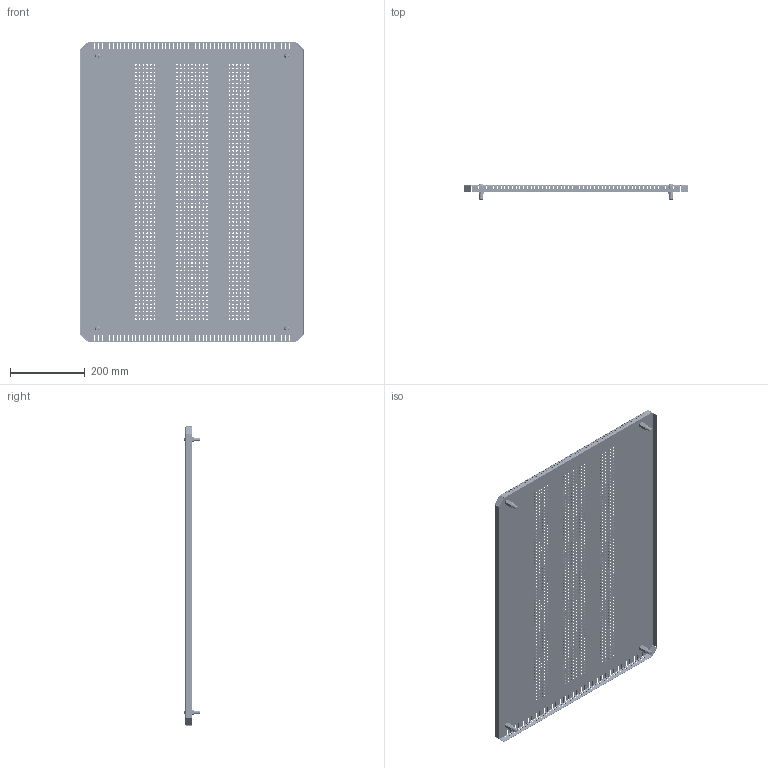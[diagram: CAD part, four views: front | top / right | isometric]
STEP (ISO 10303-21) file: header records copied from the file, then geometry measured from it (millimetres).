
FILE_DESCRIPTION (( 'STEP AP203' ), '1' );
FILE_NAME ('R 60.80 IP Ïàíåëü òåëåêîììóíèêàöèîííàÿ ïîòîëî÷íàÿ ñ ïåðôîðàöèåé.STEP', '2013-01-12T08:52:11', ( 'System' ), ( '' ), 'SwSTEP 2.0', 'SolidWorks 2012', '' );
FILE_SCHEMA (( 'CONFIG_CONTROL_DESIGN' ));
Products named in the file (1): R 60.80 IP Ïàíåëü òåëåêîììóíèêàöèîííàÿ ïîòîëî÷íàÿ ñ ïåðôîðàöèåé
Bounding box: 600 x 42.72 x 800 mm (x, y, z)
Volume: 616448.6 mm3; surface area: 1038037 mm2
Topology: 5 solids, 9 shells, 4252 faces, 12326 edges, 7884 vertices
Faces by surface type: cylinder 3166, plane 990, cone 56, bspline 16, torus 16, sphere 8
Entity records: 149455 total; most frequent: DIRECTION 27102, CARTESIAN_POINT 25843, ORIENTED_EDGE 24620, EDGE_CURVE 12310, AXIS2_PLACEMENT_3D 10673, VERTEX_POINT 7884, EDGE_LOOP 7178, CIRCLE 6436
